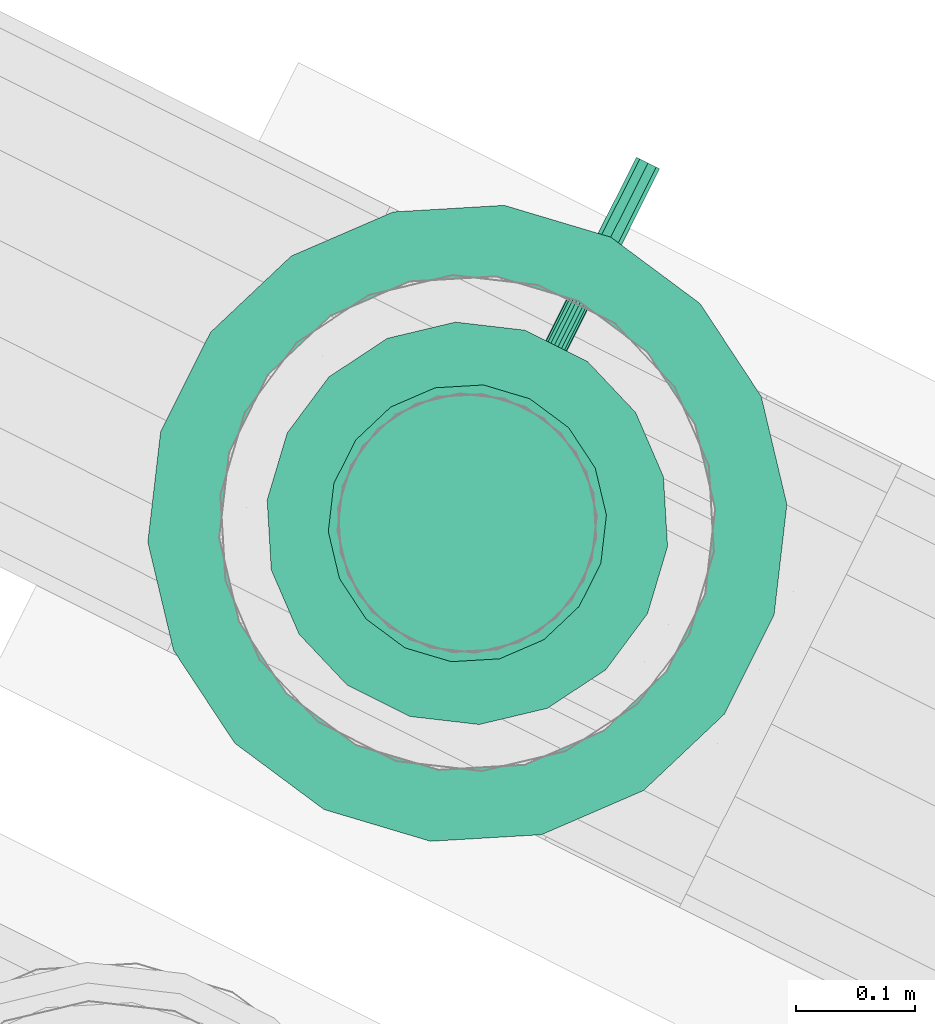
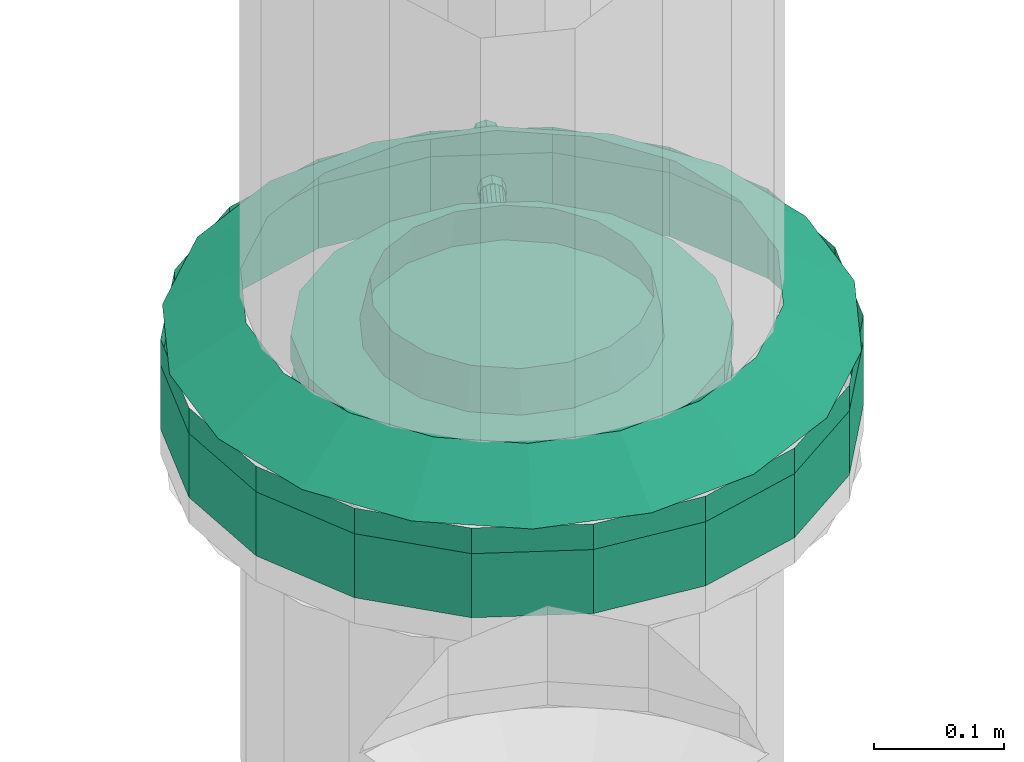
# One storey, part 128 of 152: 1 flow controller, 1 flow fitting.
"""IFC2X3 building model written with IfcOpenShell, lengths in metres."""

import ifcopenshell
import ifcopenshell.guid

model = None  # the IFC model being written
_history = None  # IfcOwnerHistory: only IFC2X3 demands one
_inside = {}  # id of a spatial element -> (the spatial element, [elements in it])
_under = {}  # id of a project, library or spatial element -> (it, [spatial elements below it])
_declared = {}  # id of a project -> (the project, [libraries it declares])
_typed = {}  # id of a type object -> (the type object, [elements of that type])
_made_of = {}  # id of a material, layer set ... -> (it, [elements and type objects made of it])


def new_model(schema):
    """Start an empty IFC model of exactly this schema.

    Asked for "IFC4X3", IfcOpenShell would pick the latest addendum, in which some entities
    have other attributes; the version numbers below select the first issue.
    IFC2X3 requires an IfcOwnerHistory on every rooted entity: one is made here for all.
    """
    global model, _history
    if schema == "IFC4X3":
        model = ifcopenshell.file(schema_version=(4, 3, 0, 0))
    else:
        model = ifcopenshell.file(schema=schema)
    _inside.clear()
    _under.clear()
    _declared.clear()
    _typed.clear()
    _made_of.clear()
    _history = None
    if model.schema == "IFC2X3":
        org = make("IfcOrganization", Name="unknown")
        user = make(
            "IfcPersonAndOrganization",
            ThePerson=make("IfcPerson", FamilyName="unknown"),
            TheOrganization=org,
        )
        app = make(
            "IfcApplication",
            ApplicationDeveloper=org,
            Version="unknown",
            ApplicationFullName="unknown",
            ApplicationIdentifier="unknown",
        )
        _history = make(
            "IfcOwnerHistory",
            OwningUser=user,
            OwningApplication=app,
            ChangeAction="ADDED",
            CreationDate=0,
        )
    return model


def make(cls, **values):
    """One entity of the class cls with the attributes given. An attribute that is None is left unset."""
    return model.create_entity(
        cls, **{name: value for name, value in values.items() if value is not None}
    )


def rooted(cls, **values):
    """An entity with a GlobalId (a new one), such as an element, a storey or a relation."""
    return make(cls, GlobalId=ifcopenshell.guid.new(), OwnerHistory=_history, **values)


def si_unit(unit_type, name, prefix=None):
    """IfcSIUnit, for example si_unit("LENGTHUNIT", "METRE", prefix="MILLI")."""
    return make("IfcSIUnit", UnitType=unit_type, Prefix=prefix, Name=name)


def derived_unit(unit_type, elements):
    """IfcDerivedUnit: a product of units, each with its exponent."""
    return make(
        "IfcDerivedUnit",
        Elements=[
            make("IfcDerivedUnitElement", Unit=unit, Exponent=power)
            for unit, power in elements
        ],
        UnitType=unit_type,
    )


def assignment(units):
    """IfcUnitAssignment: the units of a project."""
    return None if units is None else make("IfcUnitAssignment", Units=units)


def point(xyz):
    """IfcCartesianPoint."""
    return None if xyz is None else make("IfcCartesianPoint", Coordinates=xyz)


def direction(xyz):
    """IfcDirection."""
    return None if xyz is None else make("IfcDirection", DirectionRatios=xyz)


def frame(location, z_axis=None, x_axis=None):
    """IfcAxis2Placement3D, a coordinate frame: its origin and axes. An axis left out is left unset."""
    return make(
        "IfcAxis2Placement3D",
        Location=point(location),
        Axis=direction(z_axis),
        RefDirection=direction(x_axis),
    )


def origin():
    """The frame at (0, 0, 0) with its axes left unset."""
    return frame((0.0, 0.0, 0.0))


def place(relative_to, where):
    """IfcLocalPlacement: puts the frame where relative to a parent placement (None: the world)."""
    return make(
        "IfcLocalPlacement", PlacementRelTo=relative_to, RelativePlacement=where
    )


def context(
    kind, dimensions, precision=None, world=None, true_north=None, identifier=None
):
    """IfcGeometricRepresentationContext, for example the 3D "Model" context."""
    return make(
        "IfcGeometricRepresentationContext",
        ContextIdentifier=identifier,
        ContextType=kind,
        CoordinateSpaceDimension=dimensions,
        Precision=precision,
        WorldCoordinateSystem=world,
        TrueNorth=true_north,
    )


def subcontext(parent, identifier, kind, view, scale=None):
    """IfcGeometricRepresentationSubContext, for example "Body" below "Model"."""
    return make(
        "IfcGeometricRepresentationSubContext",
        ContextIdentifier=identifier,
        ContextType=kind,
        ParentContext=parent,
        TargetScale=scale,
        TargetView=view,
    )


def project(units=None, contexts=None):
    """IfcProject with its units and contexts."""
    return rooted(
        "IfcProject",
        Name="project",
        RepresentationContexts=contexts,
        UnitsInContext=assignment(units),
    )


def spatial(cls, under=None, at=None, **own):
    """A site, building, storey or space (cls), placed at a placement, below another one or the project."""
    s = rooted(cls, ObjectPlacement=at, **own)
    if under is not None:
        _under.setdefault(under.id(), (under, []))[1].append(s)
    return s


def faces_of(points, faces, orient=None, outer=None):
    """IfcFace entities. A face is a list of loops; a loop is a list of indices into points, from 0.

    orient and outer hold one flag for each loop. By default every Orientation is true, the
    first loop of a face is its IfcFaceOuterBound and the others are IfcFaceBound.
    """
    made = []
    for i, loops in enumerate(faces):
        bounds = []
        for j, loop in enumerate(loops):
            is_outer = j == 0 if outer is None else outer[i][j]
            bounds.append(
                make(
                    "IfcFaceOuterBound" if is_outer else "IfcFaceBound",
                    Bound=make("IfcPolyLoop", Polygon=[points[k] for k in loop]),
                    Orientation=True if orient is None else orient[i][j],
                )
            )
        made.append(make("IfcFace", Bounds=bounds))
    return made


def face_set(faces, orient=None, outer=None):
    """The faces of one IfcConnectedFaceSet. surface_model builds it on its shared points."""
    return ("IfcConnectedFaceSet", faces, orient, outer)


def surface_model(cls, points, shells):
    """IfcFaceBasedSurfaceModel or IfcShellBasedSurfaceModel (cls): surfaces that need not close."""
    shared = [point(p) for p in points]
    made = [make(c, CfsFaces=faces_of(shared, fs, o, b)) for c, fs, o, b in shells]
    if cls == "IfcFaceBasedSurfaceModel":
        return make(cls, FbsmFaces=made)
    return make(cls, SbsmBoundary=made)


def shape(context_of_items, identifier, shape_type, items):
    """IfcShapeRepresentation: the items that make up one representation, for example the "Body"."""
    return make(
        "IfcShapeRepresentation",
        ContextOfItems=context_of_items,
        RepresentationIdentifier=identifier,
        RepresentationType=shape_type,
        Items=items,
    )


def source(mapping_origin, context_of_items, identifier, shape_type, items):
    """IfcRepresentationMap: a shape defined once, which mapped items show again and again."""
    return make(
        "IfcRepresentationMap",
        MappingOrigin=mapping_origin,
        MappedRepresentation=shape(context_of_items, identifier, shape_type, items),
    )


def transform(
    local_origin,
    x_axis=None,
    y_axis=None,
    z_axis=None,
    scale=None,
    scale2=None,
    scale3=None,
    uniform=True,
):
    """IfcCartesianTransformationOperator3D, or its non-uniform kind. x_axis, y_axis, z_axis: its Axis1, 2, 3."""
    if uniform:
        return make(
            "IfcCartesianTransformationOperator3D",
            Axis1=direction(x_axis),
            Axis2=direction(y_axis),
            LocalOrigin=point(local_origin),
            Scale=scale,
            Axis3=direction(z_axis),
        )
    return make(
        "IfcCartesianTransformationOperator3DnonUniform",
        Axis1=direction(x_axis),
        Axis2=direction(y_axis),
        LocalOrigin=point(local_origin),
        Scale=scale,
        Axis3=direction(z_axis),
        Scale2=scale2,
        Scale3=scale3,
    )


def mapped(mapping_source, mapping_target):
    """IfcMappedItem: shows the shape of a source again, moved by a transform."""
    return make(
        "IfcMappedItem", MappingSource=mapping_source, MappingTarget=mapping_target
    )


def material(Name=None, Category=None):
    """IfcMaterial."""
    return make("IfcMaterial", Name=Name, Category=Category)


def made_of(thing, what):
    """Note that an element or type object is made of a material, layer set ...; save() writes the relation."""
    if what is not None:
        _made_of.setdefault(what.id(), (what, []))[1].append(thing)
    return thing


def type_object(cls, material=None, **own):
    """A type object (cls), such as IfcWallType, which elements share."""
    return made_of(rooted(cls, **own), material)


def type_shapes(of_type, sources):
    """Give a type object the sources (RepresentationMaps) that its elements show as mapped items."""
    of_type.RepresentationMaps = sources


def element(
    cls,
    number,
    at=None,
    inside=None,
    cuts=None,
    type_object=None,
    material=None,
    context=None,
    identifier="Body",
    shape_type=None,
    held_by="IfcProductDefinitionShape",
    body=None,
    shapes=None,
    **own,
):
    """One element of the class cls, such as IfcWall. Its Tag is "e" and its number.

    at: its placement. inside: the storey or other place that contains it. cuts: it is an
    opening in that element (IfcRelVoidsElement). A single representation is given by context,
    identifier, shape_type and body (its items); several are given by shapes. held_by: the class
    of the entity that holds the representations. save() writes the other relations.
    """
    e = rooted(cls, Tag="e%d" % number, ObjectPlacement=at, **own)
    if body is not None:
        shapes = [shape(context, identifier, shape_type, body)]
    if shapes is not None:
        e.Representation = make(held_by, Representations=shapes)
    if inside is not None:
        _inside.setdefault(inside.id(), (inside, []))[1].append(e)
    if cuts is not None:
        rooted(
            "IfcRelVoidsElement", RelatingBuildingElement=cuts, RelatedOpeningElement=e
        )
    if type_object is not None:
        _typed.setdefault(type_object.id(), (type_object, []))[1].append(e)
    return made_of(e, material)


def aggregate(whole, parts):
    """IfcRelAggregates: a whole, such as a stair, and the parts it consists of."""
    return rooted("IfcRelAggregates", RelatingObject=whole, RelatedObjects=parts)


def save(model, path):
    """Write the relations noted so far, then the file.

    IfcRelAggregates (storeys below a building ...), IfcRelContainedInSpatialStructure (elements
    in a storey), IfcRelDefinesByType, IfcRelAssociatesMaterial and IfcRelDeclares: one each for
    every whole, place, type object, material and project.
    """
    for whole, parts in _under.values():
        aggregate(whole, parts)
    for where, things in _inside.values():
        rooted(
            "IfcRelContainedInSpatialStructure",
            RelatedElements=things,
            RelatingStructure=where,
        )
    for kind, things in _typed.values():
        rooted("IfcRelDefinesByType", RelatedObjects=things, RelatingType=kind)
    for what, things in _made_of.values():
        rooted("IfcRelAssociatesMaterial", RelatedObjects=things, RelatingMaterial=what)
    for by, libraries in _declared.values():
        rooted("IfcRelDeclares", RelatingContext=by, RelatedDefinitions=libraries)
    model.write(path)


model = new_model("IFC2X3")

# Units and contexts
model_context = context("Model", 3, precision=5.2338327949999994e-05, world=origin(), true_north=direction((0.0, 1.0)))
body_context = subcontext(model_context, "Body", "Model", "MODEL_VIEW")
ifc_project = project(units=[si_unit("LENGTHUNIT", "METRE"), si_unit("AREAUNIT", "SQUARE_METRE"), si_unit("VOLUMEUNIT", "CUBIC_METRE"), si_unit("MASSUNIT", "GRAM", prefix="KILO"), si_unit("PLANEANGLEUNIT", "RADIAN"), derived_unit("THERMALTRANSMITTANCEUNIT", [(si_unit("MASSUNIT", "GRAM", prefix="KILO"), 1), (si_unit("THERMODYNAMICTEMPERATUREUNIT", "KELVIN"), -1), (si_unit("TIMEUNIT", "SECOND"), -3)])], contexts=[model_context])

# Site, building, storey
site_placement = place(None, frame((0.0, 0.0, 0.0), z_axis=(0.0, 0.0, 1.0), x_axis=(0.8939966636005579, -0.4480736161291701, 0.0)))
site = spatial("IfcSite", under=ifc_project, at=site_placement, Name="Default", CompositionType="ELEMENT")
building_placement = place(site_placement, origin())
building = spatial("IfcBuilding", under=site, at=building_placement, CompositionType="ELEMENT")
storey_placement = place(building_placement, frame((0.0, 0.0, 2.7499999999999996)))
storey = spatial("IfcBuildingStorey", under=building, at=storey_placement, Name="1. Obergeschoss", CompositionType="ELEMENT", Elevation=2.7499999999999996)

# Flow controller
ifc_material = material(Name="IfcSurfaceStyle #1741")
distribution_element_type_1 = type_object("IfcDistributionElementType", Name="Zwischenflanschklappe:Zwischenflanschklappe", material=ifc_material)
shared_shape_1 = source(origin(), body_context, "Body", "SurfaceModel", [
    surface_model("IfcFaceBasedSurfaceModel", [(9.508270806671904, 8.012208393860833, 4.161028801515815), (9.515356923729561, 8.052395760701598, 4.161028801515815), (9.515356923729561, 8.052395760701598, 4.141028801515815), (9.508270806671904, 8.012208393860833, 4.141028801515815), (9.535760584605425, 8.087735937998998, 4.161028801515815), (9.535760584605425, 8.087735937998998, 4.141028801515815), (9.567020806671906, 8.113966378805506, 4.161028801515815), (9.567020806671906, 8.113966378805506, 4.141028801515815), (9.605367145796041, 8.127923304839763, 4.161028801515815), (9.605367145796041, 8.127923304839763, 4.141028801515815), (9.646174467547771, 8.127923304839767, 4.161028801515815), (9.646174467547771, 8.127923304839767, 4.141028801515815), (9.684520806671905, 8.113966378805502, 4.161028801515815), (9.684520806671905, 8.113966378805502, 4.141028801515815), (9.715781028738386, 8.087735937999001, 4.161028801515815), (9.715781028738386, 8.087735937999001, 4.141028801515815), (9.736184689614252, 8.0523957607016, 4.161028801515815), (9.736184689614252, 8.0523957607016, 4.141028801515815), (9.743270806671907, 8.012208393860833, 4.161028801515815), (9.743270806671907, 8.012208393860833, 4.141028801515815), (9.736184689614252, 7.972021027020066, 4.161028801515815), (9.736184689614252, 7.972021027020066, 4.141028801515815), (9.715781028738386, 7.936680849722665, 4.161028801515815), (9.715781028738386, 7.936680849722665, 4.141028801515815), (9.684520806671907, 7.910450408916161, 4.161028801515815), (9.684520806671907, 7.910450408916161, 4.141028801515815), (9.646174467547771, 7.896493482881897, 4.161028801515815), (9.646174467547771, 7.896493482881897, 4.141028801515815), (9.605367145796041, 7.896493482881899, 4.161028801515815), (9.605367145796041, 7.896493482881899, 4.141028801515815), (9.567020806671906, 7.91045040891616, 4.161028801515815), (9.567020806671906, 7.91045040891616, 4.141028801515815), (9.535760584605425, 7.936680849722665, 4.161028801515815), (9.535760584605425, 7.936680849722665, 4.141028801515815), (9.515356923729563, 7.972021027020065, 4.161028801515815), (9.515356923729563, 7.972021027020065, 4.141028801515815), (9.625770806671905, 8.012208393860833, 4.161028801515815), (9.625770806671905, 8.012208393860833, 4.141028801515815), (9.455770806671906, 8.012208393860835, 4.141028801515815), (9.466023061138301, 8.070351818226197, 4.141028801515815), (9.466023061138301, 8.070351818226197, 4.1210288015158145), (9.455770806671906, 8.012208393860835, 4.1210288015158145), (9.495543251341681, 8.121482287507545, 4.141028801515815), (9.495543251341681, 8.121482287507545, 4.1210288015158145), (9.540770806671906, 8.159432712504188, 4.141028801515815), (9.540770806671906, 8.159432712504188, 4.1210288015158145), (9.596250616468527, 8.179625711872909, 4.141028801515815), (9.596250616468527, 8.179625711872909, 4.1210288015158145), (9.655290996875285, 8.179625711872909, 4.141028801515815), (9.655290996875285, 8.179625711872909, 4.1210288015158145), (9.710770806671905, 8.159432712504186, 4.141028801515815), (9.710770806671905, 8.159432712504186, 4.1210288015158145), (9.755998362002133, 8.121482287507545, 4.141028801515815), (9.755998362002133, 8.121482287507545, 4.1210288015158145), (9.78551855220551, 8.070351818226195, 4.141028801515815), (9.78551855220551, 8.070351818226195, 4.1210288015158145), (9.795770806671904, 8.012208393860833, 4.141028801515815), (9.795770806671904, 8.012208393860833, 4.1210288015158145), (9.785518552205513, 7.954064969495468, 4.141028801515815), (9.785518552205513, 7.954064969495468, 4.1210288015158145), (9.755998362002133, 7.90293450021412, 4.141028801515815), (9.755998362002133, 7.90293450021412, 4.1210288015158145), (9.710770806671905, 7.864984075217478, 4.141028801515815), (9.710770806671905, 7.864984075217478, 4.1210288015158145), (9.655290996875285, 7.844791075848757, 4.141028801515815), (9.655290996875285, 7.844791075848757, 4.1210288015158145), (9.596250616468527, 7.844791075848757, 4.141028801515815), (9.596250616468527, 7.844791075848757, 4.1210288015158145), (9.540770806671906, 7.864984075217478, 4.141028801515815), (9.540770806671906, 7.864984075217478, 4.1210288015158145), (9.495543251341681, 7.90293450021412, 4.141028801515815), (9.495543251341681, 7.90293450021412, 4.1210288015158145), (9.466023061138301, 7.9540649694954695, 4.141028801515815), (9.466023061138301, 7.9540649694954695, 4.1210288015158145), (9.625770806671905, 8.012208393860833, 4.1210288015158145), (9.508270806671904, 8.012208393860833, 4.1210288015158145), (9.515356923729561, 8.052395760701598, 4.1210288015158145), (9.515356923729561, 8.052395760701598, 4.101028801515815), (9.508270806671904, 8.012208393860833, 4.101028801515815), (9.535760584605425, 8.087735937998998, 4.1210288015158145), (9.535760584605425, 8.087735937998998, 4.101028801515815), (9.567020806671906, 8.113966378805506, 4.1210288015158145), (9.567020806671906, 8.113966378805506, 4.101028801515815), (9.605367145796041, 8.127923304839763, 4.1210288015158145), (9.605367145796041, 8.127923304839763, 4.101028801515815), (9.646174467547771, 8.127923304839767, 4.1210288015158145), (9.646174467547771, 8.127923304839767, 4.101028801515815), (9.684520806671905, 8.113966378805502, 4.1210288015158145), (9.684520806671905, 8.113966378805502, 4.101028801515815), (9.715781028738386, 8.087735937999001, 4.1210288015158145), (9.715781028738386, 8.087735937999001, 4.101028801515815), (9.736184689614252, 8.0523957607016, 4.1210288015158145), (9.736184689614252, 8.0523957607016, 4.101028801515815), (9.743270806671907, 8.012208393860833, 4.1210288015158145), (9.743270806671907, 8.012208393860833, 4.101028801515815), (9.736184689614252, 7.972021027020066, 4.1210288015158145), (9.736184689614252, 7.972021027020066, 4.101028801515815), (9.715781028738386, 7.936680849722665, 4.1210288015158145), (9.715781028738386, 7.936680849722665, 4.101028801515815), (9.684520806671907, 7.910450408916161, 4.1210288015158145), (9.684520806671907, 7.910450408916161, 4.101028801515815), (9.646174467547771, 7.896493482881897, 4.1210288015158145), (9.646174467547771, 7.896493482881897, 4.101028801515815), (9.605367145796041, 7.896493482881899, 4.1210288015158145), (9.605367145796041, 7.896493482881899, 4.101028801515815), (9.567020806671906, 7.91045040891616, 4.1210288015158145), (9.567020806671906, 7.91045040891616, 4.101028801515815), (9.535760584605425, 7.936680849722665, 4.1210288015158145), (9.535760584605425, 7.936680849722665, 4.101028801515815), (9.515356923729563, 7.972021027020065, 4.1210288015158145), (9.515356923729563, 7.972021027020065, 4.101028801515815), (9.625770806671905, 8.012208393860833, 4.101028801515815), (9.615770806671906, 8.012208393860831, 4.131028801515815), (9.616373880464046, 8.012208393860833, 4.134449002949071), (9.61637388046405, 8.267208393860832, 4.134449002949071), (9.615770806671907, 8.267208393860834, 4.131028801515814), (9.618110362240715, 8.012208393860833, 4.13745667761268), (9.618110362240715, 8.267208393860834, 4.13745667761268), (9.620770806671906, 8.012208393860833, 4.139689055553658), (9.620770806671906, 8.267208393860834, 4.139689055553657), (9.624034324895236, 8.012208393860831, 4.140876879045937), (9.624034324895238, 8.267208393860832, 4.140876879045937), (9.627507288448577, 8.012208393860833, 4.140876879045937), (9.627507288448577, 8.267208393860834, 4.140876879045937), (9.630770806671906, 8.012208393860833, 4.139689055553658), (9.630770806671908, 8.267208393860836, 4.139689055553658), (9.633431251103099, 8.012208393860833, 4.137456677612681), (9.633431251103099, 8.267208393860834, 4.137456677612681), (9.635167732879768, 8.012208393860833, 4.134449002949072), (9.635167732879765, 8.267208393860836, 4.134449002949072), (9.635770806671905, 8.012208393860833, 4.131028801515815), (9.635770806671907, 8.267208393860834, 4.131028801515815), (9.635167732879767, 8.012208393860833, 4.127608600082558), (9.635167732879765, 8.267208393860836, 4.127608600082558), (9.633431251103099, 8.012208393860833, 4.1246009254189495), (9.633431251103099, 8.267208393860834, 4.1246009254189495), (9.630770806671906, 8.012208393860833, 4.12236854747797), (9.630770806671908, 8.267208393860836, 4.12236854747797), (9.627507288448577, 8.012208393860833, 4.121180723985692), (9.627507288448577, 8.267208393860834, 4.121180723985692), (9.624034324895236, 8.012208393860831, 4.121180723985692), (9.624034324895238, 8.267208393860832, 4.121180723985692), (9.620770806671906, 8.012208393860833, 4.12236854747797), (9.620770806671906, 8.267208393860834, 4.12236854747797), (9.618110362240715, 8.012208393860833, 4.1246009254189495), (9.618110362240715, 8.267208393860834, 4.1246009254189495), (9.616373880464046, 8.012208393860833, 4.127608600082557), (9.61637388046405, 8.267208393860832, 4.127608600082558), (9.625770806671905, 8.012208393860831, 4.131028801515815), (9.625770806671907, 8.267208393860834, 4.131028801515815), (9.614815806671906, 8.267208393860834, 4.131028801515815), (9.618024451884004, 8.267208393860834, 4.138775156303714), (9.618024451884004, 8.352208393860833, 4.138775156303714), (9.614815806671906, 8.352208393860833, 4.131028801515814), (9.625770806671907, 8.267208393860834, 4.141983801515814), (9.625770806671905, 8.352208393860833, 4.141983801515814), (9.633517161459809, 8.267208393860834, 4.138775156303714), (9.633517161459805, 8.352208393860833, 4.138775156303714), (9.636725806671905, 8.26720839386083, 4.131028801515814), (9.636725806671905, 8.352208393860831, 4.131028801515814), (9.63351716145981, 8.267208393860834, 4.123282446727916), (9.633517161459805, 8.352208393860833, 4.123282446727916), (9.625770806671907, 8.267208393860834, 4.120073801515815), (9.625770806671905, 8.352208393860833, 4.120073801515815), (9.618024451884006, 8.267208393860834, 4.123282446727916), (9.618024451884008, 8.352208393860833, 4.123282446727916), (9.625770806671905, 8.352208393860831, 4.131028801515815), (9.355770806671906, 8.012208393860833, 4.161028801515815), (9.372053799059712, 8.10455383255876, 4.161028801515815), (9.372053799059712, 8.10455383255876, 4.101028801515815), (9.355770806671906, 8.012208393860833, 4.101028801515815), (9.41893880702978, 8.185761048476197, 4.161028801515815), (9.41893880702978, 8.185761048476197, 4.101028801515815), (9.490770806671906, 8.246035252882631, 4.161028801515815), (9.490770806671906, 8.246035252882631, 4.101028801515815), (9.578885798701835, 8.27810648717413, 4.161028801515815), (9.578885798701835, 8.27810648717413, 4.101028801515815), (9.672655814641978, 8.27810648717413, 4.161028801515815), (9.672655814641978, 8.27810648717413, 4.101028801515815), (9.760770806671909, 8.246035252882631, 4.161028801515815), (9.760770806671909, 8.246035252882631, 4.101028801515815), (9.83260280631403, 8.185761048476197, 4.161028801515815), (9.83260280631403, 8.185761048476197, 4.101028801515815), (9.879487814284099, 8.10455383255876, 4.161028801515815), (9.879487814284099, 8.10455383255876, 4.101028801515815), (9.895770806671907, 8.012208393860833, 4.161028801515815), (9.895770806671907, 8.012208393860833, 4.101028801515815), (9.8794878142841, 7.919862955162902, 4.161028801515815), (9.8794878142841, 7.919862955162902, 4.101028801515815), (9.83260280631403, 7.838655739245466, 4.161028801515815), (9.83260280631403, 7.838655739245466, 4.101028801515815), (9.760770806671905, 7.778381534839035, 4.161028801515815), (9.760770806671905, 7.778381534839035, 4.101028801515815), (9.67265581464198, 7.746310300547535, 4.161028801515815), (9.67265581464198, 7.746310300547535, 4.101028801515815), (9.578885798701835, 7.746310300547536, 4.161028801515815), (9.578885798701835, 7.746310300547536, 4.101028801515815), (9.490770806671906, 7.778381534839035, 4.161028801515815), (9.490770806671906, 7.778381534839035, 4.101028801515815), (9.418938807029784, 7.838655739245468, 4.161028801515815), (9.418938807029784, 7.838655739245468, 4.101028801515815), (9.372053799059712, 7.919862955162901, 4.161028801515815), (9.372053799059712, 7.919862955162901, 4.101028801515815)], [face_set([[[0, 1, 2, 3]], [[1, 4, 5, 2]], [[4, 6, 7, 5]], [[6, 8, 9, 7]], [[8, 10, 11, 9]], [[10, 12, 13, 11]], [[12, 14, 15, 13]], [[14, 16, 17, 15]], [[16, 18, 19, 17]], [[18, 20, 21, 19]], [[20, 22, 23, 21]], [[22, 24, 25, 23]], [[24, 26, 27, 25]], [[26, 28, 29, 27]], [[28, 30, 31, 29]], [[30, 32, 33, 31]], [[32, 34, 35, 33]], [[34, 0, 3, 35]], [[36, 1, 0]], [[36, 4, 1]], [[36, 6, 4]], [[36, 8, 6]], [[36, 10, 8]], [[36, 12, 10]], [[36, 14, 12]], [[36, 16, 14]], [[36, 18, 16]], [[36, 20, 18]], [[36, 22, 20]], [[36, 24, 22]], [[36, 26, 24]], [[36, 28, 26]], [[36, 30, 28]], [[36, 32, 30]], [[36, 34, 32]], [[36, 0, 34]], [[37, 35, 3]], [[37, 33, 35]], [[37, 31, 33]], [[37, 29, 31]], [[37, 27, 29]], [[37, 25, 27]], [[37, 23, 25]], [[37, 21, 23]], [[37, 19, 21]], [[37, 17, 19]], [[37, 15, 17]], [[37, 13, 15]], [[37, 11, 13]], [[37, 9, 11]], [[37, 7, 9]], [[37, 5, 7]], [[37, 2, 5]], [[37, 3, 2]], [[38, 39, 40, 41]], [[39, 42, 43, 40]], [[42, 44, 45, 43]], [[44, 46, 47, 45]], [[46, 48, 49, 47]], [[48, 50, 51, 49]], [[50, 52, 53, 51]], [[52, 54, 55, 53]], [[54, 56, 57, 55]], [[56, 58, 59, 57]], [[58, 60, 61, 59]], [[60, 62, 63, 61]], [[62, 64, 65, 63]], [[64, 66, 67, 65]], [[66, 68, 69, 67]], [[68, 70, 71, 69]], [[70, 72, 73, 71]], [[72, 38, 41, 73]], [[37, 39, 38]], [[37, 42, 39]], [[37, 44, 42]], [[37, 46, 44]], [[37, 48, 46]], [[37, 50, 48]], [[37, 52, 50]], [[37, 54, 52]], [[37, 56, 54]], [[37, 58, 56]], [[37, 60, 58]], [[37, 62, 60]], [[37, 64, 62]], [[37, 66, 64]], [[37, 68, 66]], [[37, 70, 68]], [[37, 72, 70]], [[37, 38, 72]], [[74, 73, 41]], [[74, 71, 73]], [[74, 69, 71]], [[74, 67, 69]], [[74, 65, 67]], [[74, 63, 65]], [[74, 61, 63]], [[74, 59, 61]], [[74, 57, 59]], [[74, 55, 57]], [[74, 53, 55]], [[74, 51, 53]], [[74, 49, 51]], [[74, 47, 49]], [[74, 45, 47]], [[74, 43, 45]], [[74, 40, 43]], [[74, 41, 40]], [[75, 76, 77, 78]], [[76, 79, 80, 77]], [[79, 81, 82, 80]], [[81, 83, 84, 82]], [[83, 85, 86, 84]], [[85, 87, 88, 86]], [[87, 89, 90, 88]], [[89, 91, 92, 90]], [[91, 93, 94, 92]], [[93, 95, 96, 94]], [[95, 97, 98, 96]], [[97, 99, 100, 98]], [[99, 101, 102, 100]], [[101, 103, 104, 102]], [[103, 105, 106, 104]], [[105, 107, 108, 106]], [[107, 109, 110, 108]], [[109, 75, 78, 110]], [[74, 76, 75]], [[74, 79, 76]], [[74, 81, 79]], [[74, 83, 81]], [[74, 85, 83]], [[74, 87, 85]], [[74, 89, 87]], [[74, 91, 89]], [[74, 93, 91]], [[74, 95, 93]], [[74, 97, 95]], [[74, 99, 97]], [[74, 101, 99]], [[74, 103, 101]], [[74, 105, 103]], [[74, 107, 105]], [[74, 109, 107]], [[74, 75, 109]], [[111, 110, 78]], [[111, 108, 110]], [[111, 106, 108]], [[111, 104, 106]], [[111, 102, 104]], [[111, 100, 102]], [[111, 98, 100]], [[111, 96, 98]], [[111, 94, 96]], [[111, 92, 94]], [[111, 90, 92]], [[111, 88, 90]], [[111, 86, 88]], [[111, 84, 86]], [[111, 82, 84]], [[111, 80, 82]], [[111, 77, 80]], [[111, 78, 77]], [[112, 113, 114, 115]], [[113, 116, 117, 114]], [[116, 118, 119, 117]], [[118, 120, 121, 119]], [[120, 122, 123, 121]], [[122, 124, 125, 123]], [[124, 126, 127, 125]], [[126, 128, 129, 127]], [[128, 130, 131, 129]], [[130, 132, 133, 131]], [[132, 134, 135, 133]], [[134, 136, 137, 135]], [[136, 138, 139, 137]], [[138, 140, 141, 139]], [[140, 142, 143, 141]], [[142, 144, 145, 143]], [[144, 146, 147, 145]], [[146, 112, 115, 147]], [[148, 113, 112]], [[148, 116, 113]], [[148, 118, 116]], [[148, 120, 118]], [[148, 122, 120]], [[148, 124, 122]], [[148, 126, 124]], [[148, 128, 126]], [[148, 130, 128]], [[148, 132, 130]], [[148, 134, 132]], [[148, 136, 134]], [[148, 138, 136]], [[148, 140, 138]], [[148, 142, 140]], [[148, 144, 142]], [[148, 146, 144]], [[148, 112, 146]], [[149, 147, 115]], [[149, 145, 147]], [[149, 143, 145]], [[149, 141, 143]], [[149, 139, 141]], [[149, 137, 139]], [[149, 135, 137]], [[149, 133, 135]], [[149, 131, 133]], [[149, 129, 131]], [[149, 127, 129]], [[149, 125, 127]], [[149, 123, 125]], [[149, 121, 123]], [[149, 119, 121]], [[149, 117, 119]], [[149, 114, 117]], [[149, 115, 114]], [[150, 151, 152, 153]], [[151, 154, 155, 152]], [[154, 156, 157, 155]], [[156, 158, 159, 157]], [[158, 160, 161, 159]], [[160, 162, 163, 161]], [[162, 164, 165, 163]], [[164, 150, 153, 165]], [[166, 165, 153]], [[166, 163, 165]], [[166, 161, 163]], [[166, 159, 161]], [[166, 157, 159]], [[166, 155, 157]], [[166, 152, 155]], [[166, 153, 152]], [[167, 168, 169, 170]], [[168, 171, 172, 169]], [[171, 173, 174, 172]], [[173, 175, 176, 174]], [[175, 177, 178, 176]], [[177, 179, 180, 178]], [[179, 181, 182, 180]], [[181, 183, 184, 182]], [[183, 185, 186, 184]], [[185, 187, 188, 186]], [[187, 189, 190, 188]], [[189, 191, 192, 190]], [[191, 193, 194, 192]], [[193, 195, 196, 194]], [[195, 197, 198, 196]], [[197, 199, 200, 198]], [[199, 201, 202, 200]], [[201, 167, 170, 202]]])]),
])
type_shapes(distribution_element_type_1, [shared_shape_1])
flow_controller_placement = place(storey_placement, frame((0.0, 0.0, -2.7499999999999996)))
element("IfcFlowController", 1, at=flow_controller_placement, inside=storey, type_object=distribution_element_type_1, material=ifc_material, Name="Zwischenflanschklappe", ObjectType="Zwischenflanschklappe", context=body_context, shape_type="MappedRepresentation", body=[
    mapped(shared_shape_1, transform((0.0, 0.0, 0.0), scale=1.0)),
])

# Flow fitting
distribution_element_type_2 = type_object("IfcDistributionElementType", Name="Flansch 5590:Flansch 5590", material=ifc_material)
shared_shape_2 = source(origin(), body_context, "Body", "SurfaceModel", [
    surface_model("IfcFaceBasedSurfaceModel", [(9.795770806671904, 8.012208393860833, 4.161028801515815), (9.78551855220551, 8.070351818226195, 4.161028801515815), (9.78551855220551, 8.070351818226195, 4.185028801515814), (9.795770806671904, 8.012208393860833, 4.185028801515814), (9.755998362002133, 8.121482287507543, 4.161028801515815), (9.755998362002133, 8.121482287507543, 4.185028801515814), (9.710770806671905, 8.159432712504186, 4.161028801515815), (9.710770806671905, 8.159432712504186, 4.185028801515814), (9.655290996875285, 8.179625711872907, 4.161028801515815), (9.655290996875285, 8.179625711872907, 4.185028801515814), (9.596250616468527, 8.179625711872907, 4.161028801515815), (9.596250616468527, 8.179625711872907, 4.185028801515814), (9.540770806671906, 8.159432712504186, 4.161028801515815), (9.540770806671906, 8.159432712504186, 4.185028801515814), (9.495543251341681, 8.121482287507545, 4.161028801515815), (9.495543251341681, 8.121482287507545, 4.185028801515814), (9.466023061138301, 8.070351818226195, 4.161028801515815), (9.466023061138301, 8.070351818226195, 4.185028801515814), (9.455770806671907, 8.012208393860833, 4.161028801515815), (9.455770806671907, 8.012208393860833, 4.185028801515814), (9.466023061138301, 7.954064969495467, 4.161028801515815), (9.466023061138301, 7.954064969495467, 4.185028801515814), (9.495543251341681, 7.902934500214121, 4.161028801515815), (9.495543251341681, 7.902934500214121, 4.185028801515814), (9.540770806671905, 7.864984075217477, 4.161028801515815), (9.540770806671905, 7.864984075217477, 4.185028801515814), (9.596250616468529, 7.844791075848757, 4.161028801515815), (9.596250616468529, 7.844791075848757, 4.185028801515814), (9.655290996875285, 7.844791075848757, 4.161028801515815), (9.655290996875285, 7.844791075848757, 4.185028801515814), (9.710770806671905, 7.864984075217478, 4.161028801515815), (9.710770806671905, 7.864984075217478, 4.185028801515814), (9.755998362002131, 7.90293450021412, 4.161028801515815), (9.755998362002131, 7.90293450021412, 4.185028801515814), (9.785518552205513, 7.954064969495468, 4.161028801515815), (9.785518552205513, 7.954064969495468, 4.185028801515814), (9.625770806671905, 8.012208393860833, 4.185028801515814), (9.625770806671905, 7.894708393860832, 4.185028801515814), (9.66595817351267, 7.901794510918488, 4.185028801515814), (9.663239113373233, 7.909265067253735, 4.223028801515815), (9.625770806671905, 7.902658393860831, 4.223028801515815), (9.701298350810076, 7.92219817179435, 4.185028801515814), (9.696188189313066, 7.928288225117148, 4.223028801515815), (9.727528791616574, 7.9534583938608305, 4.185028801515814), (9.720643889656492, 7.957433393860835, 4.223028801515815), (9.741485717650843, 7.991804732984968, 4.185028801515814), (9.733656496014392, 7.993185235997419, 4.223028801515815), (9.741485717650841, 8.032612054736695, 4.185028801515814), (9.733656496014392, 8.031231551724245, 4.223028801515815), (9.727528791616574, 8.070958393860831, 4.185028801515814), (9.720643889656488, 8.066983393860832, 4.223028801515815), (9.701298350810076, 8.102218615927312, 4.185028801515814), (9.696188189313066, 8.096128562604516, 4.223028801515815), (9.66595817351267, 8.122622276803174, 4.185028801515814), (9.663239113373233, 8.11515172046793, 4.223028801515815), (9.625770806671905, 8.129708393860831, 4.185028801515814), (9.625770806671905, 8.121758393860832, 4.223028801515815), (9.585583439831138, 8.122622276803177, 4.185028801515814), (9.588302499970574, 8.11515172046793, 4.223028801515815), (9.550243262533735, 8.10221861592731, 4.185028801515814), (9.555353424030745, 8.096128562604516, 4.223028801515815), (9.524012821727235, 8.07095839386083, 4.185028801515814), (9.53089772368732, 8.06698339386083, 4.223028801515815), (9.51005589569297, 8.032612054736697, 4.185028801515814), (9.517885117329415, 8.031231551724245, 4.223028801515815), (9.51005589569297, 7.991804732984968, 4.185028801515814), (9.517885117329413, 7.9931852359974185, 4.223028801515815), (9.524012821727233, 7.953458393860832, 4.185028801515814), (9.53089772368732, 7.957433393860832, 4.223028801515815), (9.550243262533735, 7.922198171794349, 4.185028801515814), (9.555353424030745, 7.928288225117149, 4.223028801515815), (9.585583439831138, 7.901794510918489, 4.185028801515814), (9.588302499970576, 7.909265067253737, 4.223028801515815), (9.895770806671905, 8.012208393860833, 4.161028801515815), (9.879487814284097, 8.10455383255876, 4.161028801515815), (9.879487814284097, 8.10455383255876, 4.185028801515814), (9.895770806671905, 8.012208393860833, 4.185028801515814), (9.83260280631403, 8.185761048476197, 4.161028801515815), (9.83260280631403, 8.185761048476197, 4.185028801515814), (9.760770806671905, 8.24603525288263, 4.161028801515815), (9.760770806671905, 8.24603525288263, 4.185028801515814), (9.672655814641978, 8.278106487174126, 4.161028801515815), (9.672655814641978, 8.278106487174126, 4.185028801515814), (9.578885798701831, 8.278106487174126, 4.161028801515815), (9.578885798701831, 8.278106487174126, 4.185028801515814), (9.490770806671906, 8.24603525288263, 4.161028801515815), (9.490770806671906, 8.24603525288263, 4.185028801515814), (9.418938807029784, 8.185761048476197, 4.161028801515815), (9.418938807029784, 8.185761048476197, 4.185028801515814), (9.37205379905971, 8.104553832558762, 4.161028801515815), (9.37205379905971, 8.104553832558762, 4.185028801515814), (9.355770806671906, 8.012208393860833, 4.161028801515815), (9.355770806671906, 8.012208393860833, 4.185028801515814), (9.372053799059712, 7.919862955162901, 4.161028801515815), (9.372053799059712, 7.919862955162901, 4.185028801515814), (9.418938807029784, 7.838655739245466, 4.161028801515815), (9.418938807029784, 7.838655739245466, 4.185028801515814), (9.490770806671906, 7.778381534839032, 4.161028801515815), (9.490770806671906, 7.778381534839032, 4.185028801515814), (9.578885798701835, 7.746310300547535, 4.161028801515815), (9.578885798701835, 7.746310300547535, 4.185028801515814), (9.672655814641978, 7.746310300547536, 4.161028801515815), (9.672655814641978, 7.746310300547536, 4.185028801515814), (9.760770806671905, 7.778381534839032, 4.161028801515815), (9.760770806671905, 7.778381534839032, 4.185028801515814), (9.83260280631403, 7.838655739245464, 4.161028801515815), (9.83260280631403, 7.838655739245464, 4.185028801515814), (9.879487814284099, 7.919862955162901, 4.161028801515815), (9.879487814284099, 7.919862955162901, 4.185028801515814), (9.625770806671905, 7.742208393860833, 4.185028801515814), (9.718116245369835, 7.758491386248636, 4.185028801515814), (9.6974411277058, 7.815295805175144, 4.223028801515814), (9.625770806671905, 7.802658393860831, 4.223028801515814), (9.79932346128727, 7.805376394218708, 4.185028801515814), (9.76046695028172, 7.85168378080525, 4.223028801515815), (9.859597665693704, 7.877208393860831, 4.185028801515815), (9.807246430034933, 7.907433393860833, 4.223028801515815), (9.8916688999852, 7.96532338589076, 4.185028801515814), (9.832137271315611, 7.975820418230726, 4.223028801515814), (9.8916688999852, 8.059093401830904, 4.185028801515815), (9.832137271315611, 8.048596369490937, 4.223028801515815), (9.859597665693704, 8.147208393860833, 4.185028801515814), (9.807246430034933, 8.116983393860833, 4.223028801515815), (9.79932346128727, 8.219040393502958, 4.185028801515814), (9.76046695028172, 8.172733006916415, 4.223028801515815), (9.718116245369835, 8.265925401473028, 4.185028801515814), (9.6974411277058, 8.20912098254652, 4.223028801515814), (9.625770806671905, 8.28220839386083, 4.185028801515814), (9.625770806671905, 8.22175839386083, 4.223028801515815), (9.533425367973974, 8.265925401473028, 4.185028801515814), (9.554100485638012, 8.20912098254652, 4.223028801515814), (9.452218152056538, 8.219040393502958, 4.185028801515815), (9.491074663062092, 8.172733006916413, 4.223028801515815), (9.391943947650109, 8.147208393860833, 4.185028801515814), (9.444295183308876, 8.116983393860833, 4.223028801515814), (9.359872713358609, 8.059093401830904, 4.185028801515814), (9.419404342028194, 8.048596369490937, 4.223028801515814), (9.359872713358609, 7.96532338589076, 4.185028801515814), (9.419404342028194, 7.975820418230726, 4.223028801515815), (9.391943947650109, 7.8772083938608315, 4.185028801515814), (9.444295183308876, 7.907433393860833, 4.223028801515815), (9.452218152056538, 7.805376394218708, 4.185028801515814), (9.491074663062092, 7.85168378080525, 4.223028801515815), (9.533425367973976, 7.758491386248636, 4.185028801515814), (9.554100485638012, 7.815295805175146, 4.223028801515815)], [face_set([[[0, 1, 2, 3]], [[1, 4, 5, 2]], [[4, 6, 7, 5]], [[6, 8, 9, 7]], [[8, 10, 11, 9]], [[10, 12, 13, 11]], [[12, 14, 15, 13]], [[14, 16, 17, 15]], [[16, 18, 19, 17]], [[18, 20, 21, 19]], [[20, 22, 23, 21]], [[22, 24, 25, 23]], [[24, 26, 27, 25]], [[26, 28, 29, 27]], [[28, 30, 31, 29]], [[30, 32, 33, 31]], [[32, 34, 35, 33]], [[34, 0, 3, 35]], [[36, 35, 3]], [[36, 33, 35]], [[36, 31, 33]], [[36, 29, 31]], [[36, 27, 29]], [[36, 25, 27]], [[36, 23, 25]], [[36, 21, 23]], [[36, 19, 21]], [[36, 17, 19]], [[36, 15, 17]], [[36, 13, 15]], [[36, 11, 13]], [[36, 9, 11]], [[36, 7, 9]], [[36, 5, 7]], [[36, 2, 5]], [[36, 3, 2]], [[37, 38, 39, 40]], [[38, 41, 42, 39]], [[41, 43, 44, 42]], [[43, 45, 46, 44]], [[45, 47, 48, 46]], [[47, 49, 50, 48]], [[49, 51, 52, 50]], [[51, 53, 54, 52]], [[53, 55, 56, 54]], [[55, 57, 58, 56]], [[57, 59, 60, 58]], [[59, 61, 62, 60]], [[61, 63, 64, 62]], [[63, 65, 66, 64]], [[65, 67, 68, 66]], [[67, 69, 70, 68]], [[69, 71, 72, 70]], [[71, 37, 40, 72]], [[73, 74, 75, 76]], [[74, 77, 78, 75]], [[77, 79, 80, 78]], [[79, 81, 82, 80]], [[81, 83, 84, 82]], [[83, 85, 86, 84]], [[85, 87, 88, 86]], [[87, 89, 90, 88]], [[89, 91, 92, 90]], [[91, 93, 94, 92]], [[93, 95, 96, 94]], [[95, 97, 98, 96]], [[97, 99, 100, 98]], [[99, 101, 102, 100]], [[101, 103, 104, 102]], [[103, 105, 106, 104]], [[105, 107, 108, 106]], [[107, 73, 76, 108]], [[109, 110, 111, 112]], [[110, 113, 114, 111]], [[113, 115, 116, 114]], [[115, 117, 118, 116]], [[117, 119, 120, 118]], [[119, 121, 122, 120]], [[121, 123, 124, 122]], [[123, 125, 126, 124]], [[125, 127, 128, 126]], [[127, 129, 130, 128]], [[129, 131, 132, 130]], [[131, 133, 134, 132]], [[133, 135, 136, 134]], [[135, 137, 138, 136]], [[137, 139, 140, 138]], [[139, 141, 142, 140]], [[141, 143, 144, 142]], [[143, 109, 112, 144]]])]),
])
type_shapes(distribution_element_type_2, [shared_shape_2])
flow_fitting_placement = place(storey_placement, frame((0.0, 0.0, -2.7499999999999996)))
element("IfcFlowFitting", 2, at=flow_fitting_placement, inside=storey, type_object=distribution_element_type_2, material=ifc_material, Name="Flansch", ObjectType="Flansch", context=body_context, shape_type="MappedRepresentation", body=[
    mapped(shared_shape_2, transform((0.0, 0.0, 0.0), scale=1.0)),
])

save(model, "model.ifc")
